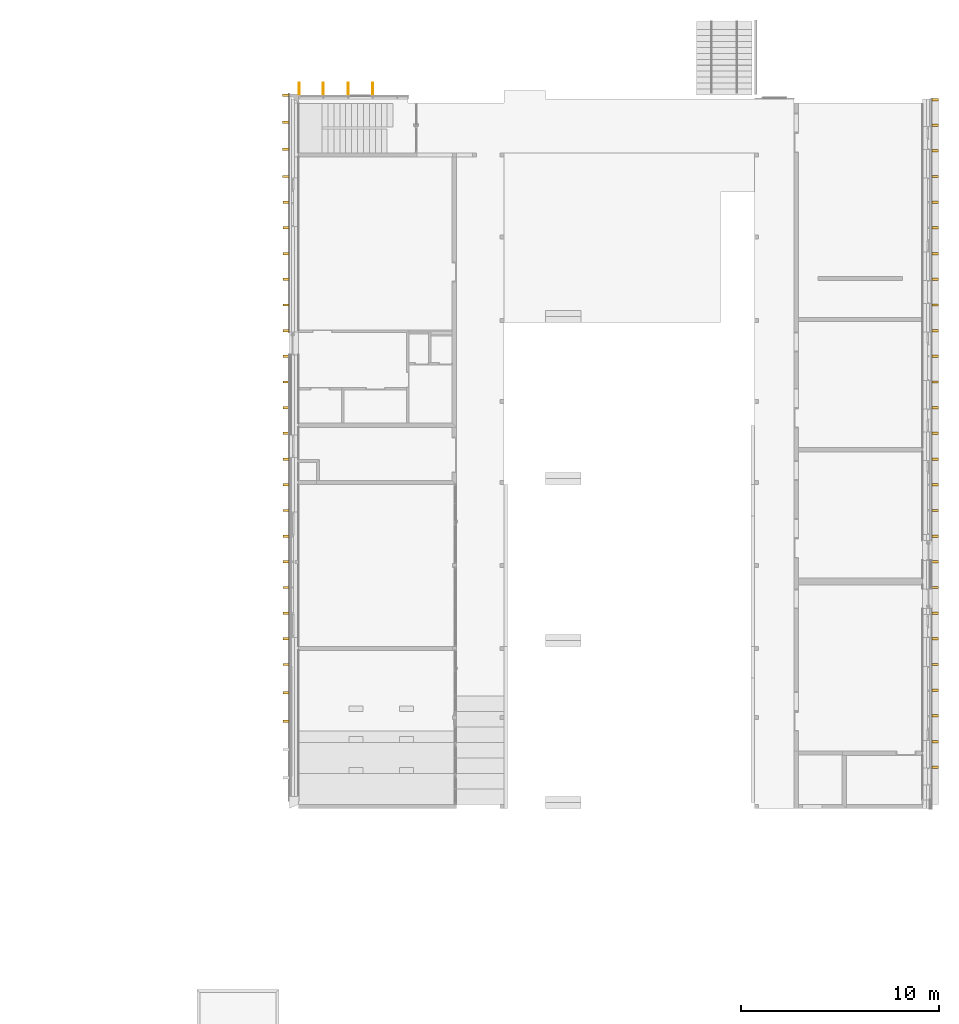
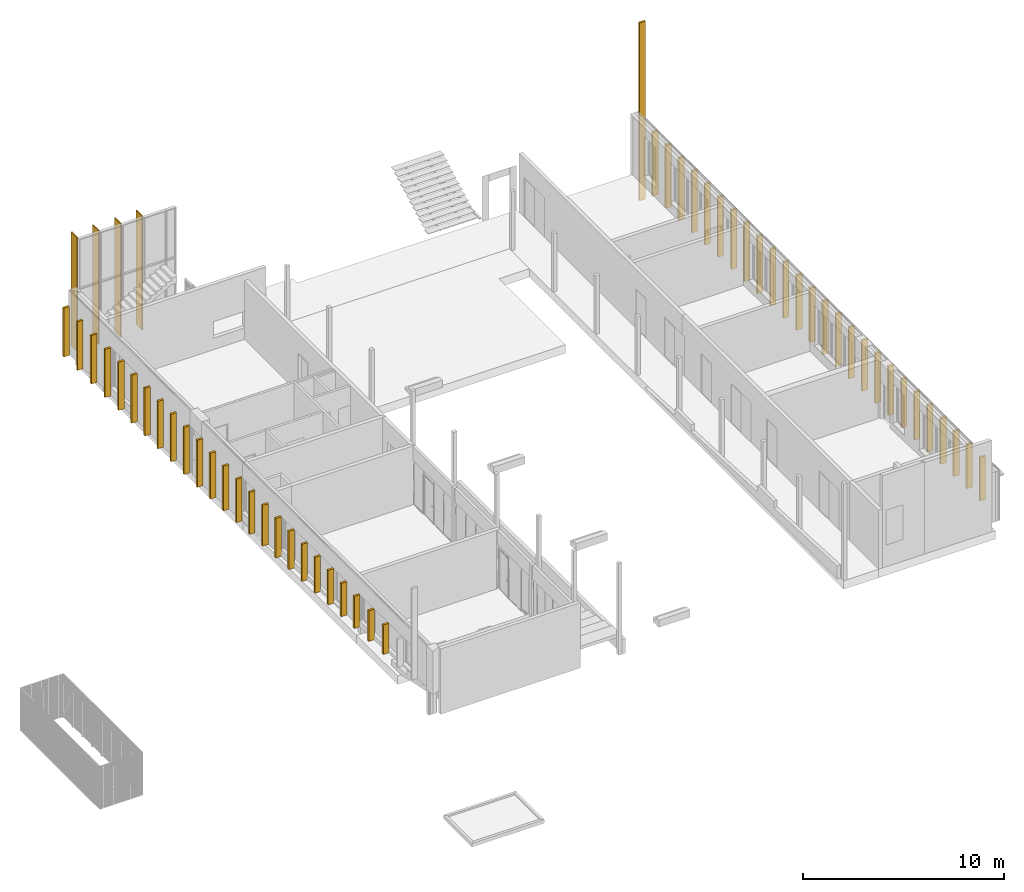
# One storey, part 57 of 65: 56 coverings.
"""IFC2X3 building model written with IfcOpenShell, lengths in millimetres."""

import ifcopenshell
import ifcopenshell.guid

model = None  # the IFC model being written
_history = None  # IfcOwnerHistory: only IFC2X3 demands one
_inside = {}  # id of a spatial element -> (the spatial element, [elements in it])
_under = {}  # id of a project, library or spatial element -> (it, [spatial elements below it])
_declared = {}  # id of a project -> (the project, [libraries it declares])
_typed = {}  # id of a type object -> (the type object, [elements of that type])
_made_of = {}  # id of a material, layer set ... -> (it, [elements and type objects made of it])


def new_model(schema):
    """Start an empty IFC model of exactly this schema.

    Asked for "IFC4X3", IfcOpenShell would pick the latest addendum, in which some entities
    have other attributes; the version numbers below select the first issue.
    IFC2X3 requires an IfcOwnerHistory on every rooted entity: one is made here for all.
    """
    global model, _history
    if schema == "IFC4X3":
        model = ifcopenshell.file(schema_version=(4, 3, 0, 0))
    else:
        model = ifcopenshell.file(schema=schema)
    _inside.clear()
    _under.clear()
    _declared.clear()
    _typed.clear()
    _made_of.clear()
    _history = None
    if model.schema == "IFC2X3":
        org = make("IfcOrganization", Name="unknown")
        user = make(
            "IfcPersonAndOrganization",
            ThePerson=make("IfcPerson", FamilyName="unknown"),
            TheOrganization=org,
        )
        app = make(
            "IfcApplication",
            ApplicationDeveloper=org,
            Version="unknown",
            ApplicationFullName="unknown",
            ApplicationIdentifier="unknown",
        )
        _history = make(
            "IfcOwnerHistory",
            OwningUser=user,
            OwningApplication=app,
            ChangeAction="ADDED",
            CreationDate=0,
        )
    return model


def make(cls, **values):
    """One entity of the class cls with the attributes given. An attribute that is None is left unset."""
    return model.create_entity(
        cls, **{name: value for name, value in values.items() if value is not None}
    )


def entity(cls, *values):
    """Any entity or typed value of the class cls, its attributes in the order of the schema. None: left unset."""
    e = model.create_entity(cls)
    for i, value in enumerate(values):
        if value is not None:
            e[i] = value
    return e


def rooted(cls, **values):
    """An entity with a GlobalId (a new one), such as an element, a storey or a relation."""
    return make(cls, GlobalId=ifcopenshell.guid.new(), OwnerHistory=_history, **values)


def si_unit(unit_type, name, prefix=None):
    """IfcSIUnit, for example si_unit("LENGTHUNIT", "METRE", prefix="MILLI")."""
    return make("IfcSIUnit", UnitType=unit_type, Prefix=prefix, Name=name)


def converted_unit(unit_type, name, factor, base, dimensions=None, offset=None):
    """IfcConversionBasedUnit, such as the inch: factor (a typed value) times the base unit."""
    return make(
        "IfcConversionBasedUnit"
        if offset is None
        else "IfcConversionBasedUnitWithOffset",
        ConversionOffset=offset,
        Dimensions=None
        if dimensions is None
        else entity("IfcDimensionalExponents", *dimensions),
        UnitType=unit_type,
        Name=name,
        ConversionFactor=make(
            "IfcMeasureWithUnit", ValueComponent=factor, UnitComponent=base
        ),
    )


def derived_unit(unit_type, elements):
    """IfcDerivedUnit: a product of units, each with its exponent."""
    return make(
        "IfcDerivedUnit",
        Elements=[
            make("IfcDerivedUnitElement", Unit=unit, Exponent=power)
            for unit, power in elements
        ],
        UnitType=unit_type,
    )


def money_unit(currency):
    """IfcMonetaryUnit."""
    return make("IfcMonetaryUnit", Currency=currency)


def assignment(units):
    """IfcUnitAssignment: the units of a project."""
    return None if units is None else make("IfcUnitAssignment", Units=units)


def point(xyz):
    """IfcCartesianPoint."""
    return None if xyz is None else make("IfcCartesianPoint", Coordinates=xyz)


def direction(xyz):
    """IfcDirection."""
    return None if xyz is None else make("IfcDirection", DirectionRatios=xyz)


def frame(location, z_axis=None, x_axis=None):
    """IfcAxis2Placement3D, a coordinate frame: its origin and axes. An axis left out is left unset."""
    return make(
        "IfcAxis2Placement3D",
        Location=point(location),
        Axis=direction(z_axis),
        RefDirection=direction(x_axis),
    )


def frame_2d(location, x_axis=None):
    """IfcAxis2Placement2D, a coordinate frame in the plane: its origin and x axis."""
    return make(
        "IfcAxis2Placement2D", Location=point(location), RefDirection=direction(x_axis)
    )


def origin_with_axes():
    """The frame at (0, 0, 0) with the z axis (0, 0, 1) and the x axis (1, 0, 0) written out."""
    return frame((0.0, 0.0, 0.0), z_axis=(0.0, 0.0, 1.0), x_axis=(1.0, 0.0, 0.0))


def origin_2d_with_axis():
    """The frame at (0, 0) in the plane with the x axis (1, 0) written out."""
    return frame_2d((0.0, 0.0), x_axis=(1.0, 0.0))


def place(relative_to, where):
    """IfcLocalPlacement: puts the frame where relative to a parent placement (None: the world)."""
    return make(
        "IfcLocalPlacement", PlacementRelTo=relative_to, RelativePlacement=where
    )


def context(
    kind, dimensions, precision=None, world=None, true_north=None, identifier=None
):
    """IfcGeometricRepresentationContext, for example the 3D "Model" context."""
    return make(
        "IfcGeometricRepresentationContext",
        ContextIdentifier=identifier,
        ContextType=kind,
        CoordinateSpaceDimension=dimensions,
        Precision=precision,
        WorldCoordinateSystem=world,
        TrueNorth=true_north,
    )


def subcontext(parent, identifier, kind, view, scale=None):
    """IfcGeometricRepresentationSubContext, for example "Body" below "Model"."""
    return make(
        "IfcGeometricRepresentationSubContext",
        ContextIdentifier=identifier,
        ContextType=kind,
        ParentContext=parent,
        TargetScale=scale,
        TargetView=view,
    )


def project(units=None, contexts=None):
    """IfcProject with its units and contexts."""
    return rooted(
        "IfcProject",
        Name="project",
        RepresentationContexts=contexts,
        UnitsInContext=assignment(units),
    )


def spatial(cls, under=None, at=None, **own):
    """A site, building, storey or space (cls), placed at a placement, below another one or the project."""
    s = rooted(cls, ObjectPlacement=at, **own)
    if under is not None:
        _under.setdefault(under.id(), (under, []))[1].append(s)
    return s


def polyline(points):
    """IfcPolyline through the points."""
    return make("IfcPolyline", Points=[point(p) for p in points])


def profile(cls, at=None, kind="AREA", **sizes):
    """A parametric profile (cls). Its sizes go by their IFC names, for example OverallWidth=200.0."""
    return make(cls, ProfileType=kind, Position=at, **sizes)


def rectangle(**sizes):
    """IfcRectangleProfileDef."""
    return profile("IfcRectangleProfileDef", **sizes)


def outline(outer, holes=None, kind="AREA"):
    """IfcArbitraryClosedProfileDef: a profile drawn as a closed curve; with holes, ...WithVoids."""
    if holes is None:
        return make("IfcArbitraryClosedProfileDef", ProfileType=kind, OuterCurve=outer)
    return make(
        "IfcArbitraryProfileDefWithVoids",
        ProfileType=kind,
        OuterCurve=outer,
        InnerCurves=holes,
    )


def extrude(swept, where, along, depth):
    """IfcExtrudedAreaSolid: the profile swept, set in the frame where, extruded along a direction by depth."""
    return make(
        "IfcExtrudedAreaSolid",
        SweptArea=swept,
        Position=where,
        ExtrudedDirection=direction(along),
        Depth=depth,
    )


def shape(context_of_items, identifier, shape_type, items):
    """IfcShapeRepresentation: the items that make up one representation, for example the "Body"."""
    return make(
        "IfcShapeRepresentation",
        ContextOfItems=context_of_items,
        RepresentationIdentifier=identifier,
        RepresentationType=shape_type,
        Items=items,
    )


def material(Name=None, Category=None):
    """IfcMaterial."""
    return make("IfcMaterial", Name=Name, Category=Category)


def made_of(thing, what):
    """Note that an element or type object is made of a material, layer set ...; save() writes the relation."""
    if what is not None:
        _made_of.setdefault(what.id(), (what, []))[1].append(thing)
    return thing


def type_object(cls, material=None, **own):
    """A type object (cls), such as IfcWallType, which elements share."""
    return made_of(rooted(cls, **own), material)


def element(
    cls,
    number,
    at=None,
    inside=None,
    cuts=None,
    type_object=None,
    material=None,
    context=None,
    identifier="Body",
    shape_type=None,
    held_by="IfcProductDefinitionShape",
    body=None,
    shapes=None,
    **own,
):
    """One element of the class cls, such as IfcWall. Its Tag is "e" and its number.

    at: its placement. inside: the storey or other place that contains it. cuts: it is an
    opening in that element (IfcRelVoidsElement). A single representation is given by context,
    identifier, shape_type and body (its items); several are given by shapes. held_by: the class
    of the entity that holds the representations. save() writes the other relations.
    """
    e = rooted(cls, Tag="e%d" % number, ObjectPlacement=at, **own)
    if body is not None:
        shapes = [shape(context, identifier, shape_type, body)]
    if shapes is not None:
        e.Representation = make(held_by, Representations=shapes)
    if inside is not None:
        _inside.setdefault(inside.id(), (inside, []))[1].append(e)
    if cuts is not None:
        rooted(
            "IfcRelVoidsElement", RelatingBuildingElement=cuts, RelatedOpeningElement=e
        )
    if type_object is not None:
        _typed.setdefault(type_object.id(), (type_object, []))[1].append(e)
    return made_of(e, material)


def aggregate(whole, parts):
    """IfcRelAggregates: a whole, such as a stair, and the parts it consists of."""
    return rooted("IfcRelAggregates", RelatingObject=whole, RelatedObjects=parts)


def save(model, path):
    """Write the relations noted so far, then the file.

    IfcRelAggregates (storeys below a building ...), IfcRelContainedInSpatialStructure (elements
    in a storey), IfcRelDefinesByType, IfcRelAssociatesMaterial and IfcRelDeclares: one each for
    every whole, place, type object, material and project.
    """
    for whole, parts in _under.values():
        aggregate(whole, parts)
    for where, things in _inside.values():
        rooted(
            "IfcRelContainedInSpatialStructure",
            RelatedElements=things,
            RelatingStructure=where,
        )
    for kind, things in _typed.values():
        rooted("IfcRelDefinesByType", RelatedObjects=things, RelatingType=kind)
    for what, things in _made_of.values():
        rooted("IfcRelAssociatesMaterial", RelatedObjects=things, RelatingMaterial=what)
    for by, libraries in _declared.values():
        rooted("IfcRelDeclares", RelatingContext=by, RelatedDefinitions=libraries)
    model.write(path)


model = new_model("IFC2X3")

# Units and contexts
model_context = context("Model", 3, precision=0.01, world=origin_with_axes(), true_north=direction((0.0, 1.0)))
body_context = subcontext(model_context, "Body", "Model", "MODEL_VIEW")
ifc_project = project(units=[si_unit("LENGTHUNIT", "METRE", prefix="MILLI"), si_unit("AREAUNIT", "SQUARE_METRE"), si_unit("VOLUMEUNIT", "CUBIC_METRE"), converted_unit("PLANEANGLEUNIT", "DEGREE", entity("IfcPlaneAngleMeasure", 0.0174532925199), si_unit("PLANEANGLEUNIT", "RADIAN"), dimensions=[0, 0, 0, 0, 0, 0, 0]), si_unit("SOLIDANGLEUNIT", "STERADIAN"), money_unit("EUR"), converted_unit("TIMEUNIT", "Year", entity("IfcTimeMeasure", 31556926.0), si_unit("TIMEUNIT", "SECOND"), dimensions=[0, 0, 1, 0, 0, 0, 0]), si_unit("MASSUNIT", "GRAM", prefix="KILO"), si_unit("THERMODYNAMICTEMPERATUREUNIT", "DEGREE_CELSIUS"), si_unit("LUMINOUSINTENSITYUNIT", "LUMEN"), si_unit("ENERGYUNIT", "JOULE", prefix="MEGA"), derived_unit("THERMALCONDUCTANCEUNIT", [(si_unit("POWERUNIT", "WATT"), 1), (si_unit("LENGTHUNIT", "METRE"), -1), (si_unit("THERMODYNAMICTEMPERATUREUNIT", "KELVIN"), -1)]), derived_unit("SPECIFICHEATCAPACITYUNIT", [(si_unit("ENERGYUNIT", "JOULE"), 1), (si_unit("MASSUNIT", "GRAM", prefix="KILO"), -1), (si_unit("THERMODYNAMICTEMPERATUREUNIT", "KELVIN"), -1)]), derived_unit("MASSDENSITYUNIT", [(si_unit("MASSUNIT", "GRAM", prefix="KILO"), 1), (si_unit("VOLUMEUNIT", "CUBIC_METRE"), -1)])], contexts=[model_context])

# Site, building, storey
site_placement = place(None, origin_with_axes())
site = spatial("IfcSite", under=ifc_project, at=site_placement, Name="Puškini 31, Narva", CompositionType="ELEMENT")
building_placement = place(site_placement, origin_with_axes())
building = spatial("IfcBuilding", under=site, at=building_placement, Name="Narva Riigigümnaasium", CompositionType="ELEMENT")
storey_placement = place(building_placement, frame((0.0, 0.0, -1320.0), z_axis=(0.0, 0.0, 1.0), x_axis=(1.0, 0.0, 0.0)))
storey = spatial("IfcBuildingStorey", under=building, at=storey_placement, Name="1.korrus -1.32", CompositionType="ELEMENT", Elevation=-1320.0)

# Coverings
ifc_material_1 = material(Name="ET-04_Alumiinium")
covering_type_1 = type_object("IfcCoveringType", Name="ET-04_Alumiinium 50", PredefinedType="NOTDEFINED")
for number, where, z_axis, x_axis in (
    (1, (22444.9999984, 195730.0, 49.9997242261), (0.0, 0.0, 1.0), (0.0, -1.0, 0.0)),
    (2, (23669.9999985, 195730.0, 49.9997242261), (0.0, 0.0, 1.0), (0.0, -1.0, 0.0)),
    (3, (24919.9999985, 195730.0, 49.9997242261), (0.0, 0.0, 1.0), (0.0, -1.0, 0.0)),
    (4, (26169.9999985, 195730.0, 49.9997242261), (0.0, 0.0, 1.0), (0.0, -1.0, 0.0)),
):
    element("IfcCovering", number, at=place(storey_placement, frame(where, z_axis=z_axis, x_axis=x_axis)), inside=storey, type_object=covering_type_1, material=ifc_material_1, Name="Fassaadilamell", PredefinedType="NOTDEFINED", context=body_context, shape_type="SweptSolid", body=[
        extrude(outline(polyline([(0.0, -25.0), (600.0, -25.0), (600.0, 25.0), (0.0, 25.0), (0.0, -25.0)])), origin_with_axes(), (0.0, 0.0, 1.0), 6910.0),
    ])
ifc_material_2 = material(Name="Puitroov")
covering_type_2 = type_object("IfcCoveringType", Name="Puitroov 120 x 320", PredefinedType="NOTDEFINED")
covering_1_placement = place(storey_placement, frame((54643.000001, 194875.0, -1843.06023389), z_axis=(0.0, 0.0, 1.0), x_axis=(0.0, 1.0, 0.0)))
element("IfcCovering", 5, at=covering_1_placement, inside=storey, type_object=covering_type_2, material=ifc_material_2, Name="Lamell", PredefinedType="NOTDEFINED", context=body_context, shape_type="SweptSolid", body=[
    extrude(rectangle(XDim=120.0, YDim=320.0, at=origin_2d_with_axis()), origin_with_axes(), (0.0, 0.0, 1.0), 10783.0602339),
])
covering_2_placement = place(storey_placement, frame((54643.0000151, 193585.151272, -787.415817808), z_axis=(0.0, 0.0, 1.0), x_axis=(0.0, 1.0, 0.0)))
element("IfcCovering", 6, at=covering_2_placement, inside=storey, type_object=covering_type_2, material=ifc_material_2, Name="Lamell", PredefinedType="NOTDEFINED", context=body_context, shape_type="SweptSolid", body=[
    extrude(rectangle(XDim=120.0, YDim=320.0, at=origin_2d_with_axis()), origin_with_axes(), (0.0, 0.0, 1.0), 3887.23830255),
])
covering_3_placement = place(storey_placement, frame((54643.0000151, 192285.151272, -737.652152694), z_axis=(0.0, 0.0, 1.0), x_axis=(0.0, 1.0, 0.0)))
element("IfcCovering", 7, at=covering_3_placement, inside=storey, type_object=covering_type_2, material=ifc_material_2, Name="Lamell", PredefinedType="NOTDEFINED", context=body_context, shape_type="SweptSolid", body=[
    extrude(rectangle(XDim=120.0, YDim=320.0, at=origin_2d_with_axis()), origin_with_axes(), (0.0, 0.0, 1.0), 3837.47463744),
])
covering_4_placement = place(storey_placement, frame((54643.0000151, 190985.151272, -687.888487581), z_axis=(0.0, 0.0, 1.0), x_axis=(0.0, 1.0, 0.0)))
element("IfcCovering", 8, at=covering_4_placement, inside=storey, type_object=covering_type_2, material=ifc_material_2, Name="Lamell", PredefinedType="NOTDEFINED", context=body_context, shape_type="SweptSolid", body=[
    extrude(rectangle(XDim=120.0, YDim=320.0, at=origin_2d_with_axis()), origin_with_axes(), (0.0, 0.0, 1.0), 3787.71097232),
])
covering_5_placement = place(storey_placement, frame((54643.0000151, 189685.151272, -638.124822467), z_axis=(0.0, 0.0, 1.0), x_axis=(0.0, 1.0, 0.0)))
element("IfcCovering", 9, at=covering_5_placement, inside=storey, type_object=covering_type_2, material=ifc_material_2, Name="Lamell", PredefinedType="NOTDEFINED", context=body_context, shape_type="SweptSolid", body=[
    extrude(rectangle(XDim=120.0, YDim=320.0, at=origin_2d_with_axis()), origin_with_axes(), (0.0, 0.0, 1.0), 3737.94730721),
])
covering_6_placement = place(storey_placement, frame((54643.0000151, 188385.151272, -588.361157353), z_axis=(0.0, 0.0, 1.0), x_axis=(0.0, 1.0, 0.0)))
element("IfcCovering", 10, at=covering_6_placement, inside=storey, type_object=covering_type_2, material=ifc_material_2, Name="Lamell", PredefinedType="NOTDEFINED", context=body_context, shape_type="SweptSolid", body=[
    extrude(rectangle(XDim=120.0, YDim=320.0, at=origin_2d_with_axis()), origin_with_axes(), (0.0, 0.0, 1.0), 3688.18364209),
])
covering_7_placement = place(storey_placement, frame((54643.0000151, 187085.151272, -538.59749224), z_axis=(0.0, 0.0, 1.0), x_axis=(0.0, 1.0, 0.0)))
element("IfcCovering", 11, at=covering_7_placement, inside=storey, type_object=covering_type_2, material=ifc_material_2, Name="Lamell", PredefinedType="NOTDEFINED", context=body_context, shape_type="SweptSolid", body=[
    extrude(rectangle(XDim=120.0, YDim=320.0, at=origin_2d_with_axis()), origin_with_axes(), (0.0, 0.0, 1.0), 3638.41997698),
])
covering_8_placement = place(storey_placement, frame((54643.0000151, 185785.151272, -488.833827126), z_axis=(0.0, 0.0, 1.0), x_axis=(0.0, 1.0, 0.0)))
element("IfcCovering", 12, at=covering_8_placement, inside=storey, type_object=covering_type_2, material=ifc_material_2, Name="Lamell", PredefinedType="NOTDEFINED", context=body_context, shape_type="SweptSolid", body=[
    extrude(rectangle(XDim=120.0, YDim=320.0, at=origin_2d_with_axis()), origin_with_axes(), (0.0, 0.0, 1.0), 3588.65631187),
])
covering_9_placement = place(storey_placement, frame((54643.0000151, 184485.151272, -439.070162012), z_axis=(0.0, 0.0, 1.0), x_axis=(0.0, 1.0, 0.0)))
element("IfcCovering", 13, at=covering_9_placement, inside=storey, type_object=covering_type_2, material=ifc_material_2, Name="Lamell", PredefinedType="NOTDEFINED", context=body_context, shape_type="SweptSolid", body=[
    extrude(rectangle(XDim=120.0, YDim=320.0, at=origin_2d_with_axis()), origin_with_axes(), (0.0, 0.0, 1.0), 3538.89264675),
])
covering_10_placement = place(storey_placement, frame((54643.0000151, 183185.151272, -389.306496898), z_axis=(0.0, 0.0, 1.0), x_axis=(0.0, 1.0, 0.0)))
element("IfcCovering", 14, at=covering_10_placement, inside=storey, type_object=covering_type_2, material=ifc_material_2, Name="Lamell", PredefinedType="NOTDEFINED", context=body_context, shape_type="SweptSolid", body=[
    extrude(rectangle(XDim=120.0, YDim=320.0, at=origin_2d_with_axis()), origin_with_axes(), (0.0, 0.0, 1.0), 3489.12898164),
])
covering_11_placement = place(storey_placement, frame((54643.0000151, 181885.151272, -339.542831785), z_axis=(0.0, 0.0, 1.0), x_axis=(0.0, 1.0, 0.0)))
element("IfcCovering", 15, at=covering_11_placement, inside=storey, type_object=covering_type_2, material=ifc_material_2, Name="Lamell", PredefinedType="NOTDEFINED", context=body_context, shape_type="SweptSolid", body=[
    extrude(rectangle(XDim=120.0, YDim=320.0, at=origin_2d_with_axis()), origin_with_axes(), (0.0, 0.0, 1.0), 3439.36531653),
])
covering_12_placement = place(storey_placement, frame((54643.0000151, 180585.151272, -289.779166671), z_axis=(0.0, 0.0, 1.0), x_axis=(0.0, 1.0, 0.0)))
element("IfcCovering", 16, at=covering_12_placement, inside=storey, type_object=covering_type_2, material=ifc_material_2, Name="Lamell", PredefinedType="NOTDEFINED", context=body_context, shape_type="SweptSolid", body=[
    extrude(rectangle(XDim=120.0, YDim=320.0, at=origin_2d_with_axis()), origin_with_axes(), (0.0, 0.0, 1.0), 3389.60165141),
])
covering_13_placement = place(storey_placement, frame((54643.0000151, 179285.151272, -240.015501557), z_axis=(0.0, 0.0, 1.0), x_axis=(0.0, 1.0, 0.0)))
element("IfcCovering", 17, at=covering_13_placement, inside=storey, type_object=covering_type_2, material=ifc_material_2, Name="Lamell", PredefinedType="NOTDEFINED", context=body_context, shape_type="SweptSolid", body=[
    extrude(rectangle(XDim=120.0, YDim=320.0, at=origin_2d_with_axis()), origin_with_axes(), (0.0, 0.0, 1.0), 3339.8379863),
])
covering_14_placement = place(storey_placement, frame((54643.0000151, 177985.151272, -190.251836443), z_axis=(0.0, 0.0, 1.0), x_axis=(0.0, 1.0, 0.0)))
element("IfcCovering", 18, at=covering_14_placement, inside=storey, type_object=covering_type_2, material=ifc_material_2, Name="Lamell", PredefinedType="NOTDEFINED", context=body_context, shape_type="SweptSolid", body=[
    extrude(rectangle(XDim=120.0, YDim=320.0, at=origin_2d_with_axis()), origin_with_axes(), (0.0, 0.0, 1.0), 3290.07432118),
])
covering_15_placement = place(storey_placement, frame((54643.0000151, 176685.151272, -140.074012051), z_axis=(0.0, 0.0, 1.0), x_axis=(0.0, 1.0, 0.0)))
element("IfcCovering", 19, at=covering_15_placement, inside=storey, type_object=covering_type_2, material=ifc_material_2, Name="Lamell", PredefinedType="NOTDEFINED", context=body_context, shape_type="SweptSolid", body=[
    extrude(rectangle(XDim=120.0, YDim=320.0, at=origin_2d_with_axis()), origin_with_axes(), (0.0, 0.0, 1.0), 3239.89649679),
])
covering_16_placement = place(storey_placement, frame((54643.0000151, 175385.151272, -90.724506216), z_axis=(0.0, 0.0, 1.0), x_axis=(0.0, 1.0, 0.0)))
element("IfcCovering", 20, at=covering_16_placement, inside=storey, type_object=covering_type_2, material=ifc_material_2, Name="Lamell", PredefinedType="NOTDEFINED", context=body_context, shape_type="SweptSolid", body=[
    extrude(rectangle(XDim=120.0, YDim=320.0, at=origin_2d_with_axis()), origin_with_axes(), (0.0, 0.0, 1.0), 3190.54699096),
])
covering_17_placement = place(storey_placement, frame((54643.0000151, 174085.151272, -40.9608411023), z_axis=(0.0, 0.0, 1.0), x_axis=(0.0, 1.0, 0.0)))
element("IfcCovering", 21, at=covering_17_placement, inside=storey, type_object=covering_type_2, material=ifc_material_2, Name="Lamell", PredefinedType="NOTDEFINED", context=body_context, shape_type="SweptSolid", body=[
    extrude(rectangle(XDim=120.0, YDim=320.0, at=origin_2d_with_axis()), origin_with_axes(), (0.0, 0.0, 1.0), 3140.78332584),
])
covering_18_placement = place(storey_placement, frame((54643.0000151, 172785.151272, 8.80282401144), z_axis=(0.0, 0.0, 1.0), x_axis=(0.0, 1.0, 0.0)))
element("IfcCovering", 22, at=covering_18_placement, inside=storey, type_object=covering_type_2, material=ifc_material_2, Name="Lamell", PredefinedType="NOTDEFINED", context=body_context, shape_type="SweptSolid", body=[
    extrude(rectangle(XDim=120.0, YDim=320.0, at=origin_2d_with_axis()), origin_with_axes(), (0.0, 0.0, 1.0), 3091.01966073),
])
covering_19_placement = place(storey_placement, frame((54643.0000151, 171485.151272, 58.5664891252), z_axis=(0.0, 0.0, 1.0), x_axis=(0.0, 1.0, 0.0)))
element("IfcCovering", 23, at=covering_19_placement, inside=storey, type_object=covering_type_2, material=ifc_material_2, Name="Lamell", PredefinedType="NOTDEFINED", context=body_context, shape_type="SweptSolid", body=[
    extrude(rectangle(XDim=120.0, YDim=320.0, at=origin_2d_with_axis()), origin_with_axes(), (0.0, 0.0, 1.0), 3041.25599562),
])
covering_20_placement = place(storey_placement, frame((54643.0000151, 170185.151272, 108.330154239), z_axis=(0.0, 0.0, 1.0), x_axis=(0.0, 1.0, 0.0)))
element("IfcCovering", 24, at=covering_20_placement, inside=storey, type_object=covering_type_2, material=ifc_material_2, Name="Lamell", PredefinedType="NOTDEFINED", context=body_context, shape_type="SweptSolid", body=[
    extrude(rectangle(XDim=120.0, YDim=320.0, at=origin_2d_with_axis()), origin_with_axes(), (0.0, 0.0, 1.0), 2991.4923305),
])
covering_21_placement = place(storey_placement, frame((54643.0000151, 168885.151272, 158.093819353), z_axis=(0.0, 0.0, 1.0), x_axis=(0.0, 1.0, 0.0)))
element("IfcCovering", 25, at=covering_21_placement, inside=storey, type_object=covering_type_2, material=ifc_material_2, Name="Lamell", PredefinedType="NOTDEFINED", context=body_context, shape_type="SweptSolid", body=[
    extrude(rectangle(XDim=120.0, YDim=320.0, at=origin_2d_with_axis()), origin_with_axes(), (0.0, 0.0, 1.0), 2941.72866539),
])
covering_22_placement = place(storey_placement, frame((54643.0000151, 167585.151272, 207.857484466), z_axis=(0.0, 0.0, 1.0), x_axis=(0.0, 1.0, 0.0)))
element("IfcCovering", 26, at=covering_22_placement, inside=storey, type_object=covering_type_2, material=ifc_material_2, Name="Lamell", PredefinedType="NOTDEFINED", context=body_context, shape_type="SweptSolid", body=[
    extrude(rectangle(XDim=120.0, YDim=320.0, at=origin_2d_with_axis()), origin_with_axes(), (0.0, 0.0, 1.0), 2891.96500027),
])
covering_23_placement = place(storey_placement, frame((54643.0000151, 166285.151272, 257.62114958), z_axis=(0.0, 0.0, 1.0), x_axis=(0.0, 1.0, 0.0)))
element("IfcCovering", 27, at=covering_23_placement, inside=storey, type_object=covering_type_2, material=ifc_material_2, Name="Lamell", PredefinedType="NOTDEFINED", context=body_context, shape_type="SweptSolid", body=[
    extrude(rectangle(XDim=120.0, YDim=320.0, at=origin_2d_with_axis()), origin_with_axes(), (0.0, 0.0, 1.0), 2842.20133516),
])
covering_24_placement = place(storey_placement, frame((54643.0000151, 164985.151272, 307.384814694), z_axis=(0.0, 0.0, 1.0), x_axis=(0.0, 1.0, 0.0)))
element("IfcCovering", 28, at=covering_24_placement, inside=storey, type_object=covering_type_2, material=ifc_material_2, Name="Lamell", PredefinedType="NOTDEFINED", context=body_context, shape_type="SweptSolid", body=[
    extrude(rectangle(XDim=120.0, YDim=320.0, at=origin_2d_with_axis()), origin_with_axes(), (0.0, 0.0, 1.0), 2792.43767005),
])
covering_25_placement = place(storey_placement, frame((54643.0000151, 163685.151272, 357.148479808), z_axis=(0.0, 0.0, 1.0), x_axis=(0.0, 1.0, 0.0)))
element("IfcCovering", 29, at=covering_25_placement, inside=storey, type_object=covering_type_2, material=ifc_material_2, Name="Lamell", PredefinedType="NOTDEFINED", context=body_context, shape_type="SweptSolid", body=[
    extrude(rectangle(XDim=120.0, YDim=320.0, at=origin_2d_with_axis()), origin_with_axes(), (0.0, 0.0, 1.0), 2742.67400493),
])
covering_26_placement = place(storey_placement, frame((54643.0000151, 162385.151272, 407.938226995), z_axis=(0.0, 0.0, 1.0), x_axis=(0.0, 1.0, 0.0)))
element("IfcCovering", 30, at=covering_26_placement, inside=storey, type_object=covering_type_2, material=ifc_material_2, Name="Lamell", PredefinedType="NOTDEFINED", context=body_context, shape_type="SweptSolid", body=[
    extrude(rectangle(XDim=120.0, YDim=320.0, at=origin_2d_with_axis()), origin_with_axes(), (0.0, 0.0, 1.0), 2691.88425775),
])
covering_27_placement = place(storey_placement, frame((54643.0000151, 161085.151272, 456.675810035), z_axis=(0.0, 0.0, 1.0), x_axis=(0.0, 1.0, 0.0)))
element("IfcCovering", 31, at=covering_27_placement, inside=storey, type_object=covering_type_2, material=ifc_material_2, Name="Lamell", PredefinedType="NOTDEFINED", context=body_context, shape_type="SweptSolid", body=[
    extrude(rectangle(XDim=120.0, YDim=320.0, at=origin_2d_with_axis()), origin_with_axes(), (0.0, 0.0, 1.0), 2643.14667471),
])
covering_28_placement = place(storey_placement, frame((21779.9999985, 179285.151272, 329.515943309), z_axis=(0.0, 0.0, 1.0), x_axis=(0.0, 1.0, 0.0)))
element("IfcCovering", 32, at=covering_28_placement, inside=storey, type_object=covering_type_2, material=ifc_material_2, Name="Lamell", PredefinedType="NOTDEFINED", context=body_context, shape_type="SweptSolid", body=[
    extrude(rectangle(XDim=120.0, YDim=320.0, at=origin_2d_with_axis()), origin_with_axes(), (0.0, 0.0, 1.0), 2700.48405669),
])
covering_29_placement = place(storey_placement, frame((21779.9999985, 177985.151272, 404.888006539), z_axis=(0.0, 0.0, 1.0), x_axis=(0.0, 1.0, 0.0)))
element("IfcCovering", 33, at=covering_29_placement, inside=storey, type_object=covering_type_2, material=ifc_material_2, Name="Lamell", PredefinedType="NOTDEFINED", context=body_context, shape_type="SweptSolid", body=[
    extrude(rectangle(XDim=120.0, YDim=320.0, at=origin_2d_with_axis()), origin_with_axes(), (0.0, 0.0, 1.0), 2625.11199346),
])
covering_30_placement = place(storey_placement, frame((21779.9999985, 176685.151272, 480.260069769), z_axis=(0.0, 0.0, 1.0), x_axis=(0.0, 1.0, 0.0)))
element("IfcCovering", 34, at=covering_30_placement, inside=storey, type_object=covering_type_2, material=ifc_material_2, Name="Lamell", PredefinedType="NOTDEFINED", context=body_context, shape_type="SweptSolid", body=[
    extrude(rectangle(XDim=120.0, YDim=320.0, at=origin_2d_with_axis()), origin_with_axes(), (0.0, 0.0, 1.0), 2549.73993023),
])
covering_31_placement = place(storey_placement, frame((21779.9999985, 175385.151272, 555.632133), z_axis=(0.0, 0.0, 1.0), x_axis=(0.0, 1.0, 0.0)))
element("IfcCovering", 35, at=covering_31_placement, inside=storey, type_object=covering_type_2, material=ifc_material_2, Name="Lamell", PredefinedType="NOTDEFINED", context=body_context, shape_type="SweptSolid", body=[
    extrude(rectangle(XDim=120.0, YDim=320.0, at=origin_2d_with_axis()), origin_with_axes(), (0.0, 0.0, 1.0), 2474.367867),
])
covering_32_placement = place(storey_placement, frame((21779.9999985, 174085.151272, 631.00419623), z_axis=(0.0, 0.0, 1.0), x_axis=(0.0, 1.0, 0.0)))
element("IfcCovering", 36, at=covering_32_placement, inside=storey, type_object=covering_type_2, material=ifc_material_2, Name="Lamell", PredefinedType="NOTDEFINED", context=body_context, shape_type="SweptSolid", body=[
    extrude(rectangle(XDim=120.0, YDim=320.0, at=origin_2d_with_axis()), origin_with_axes(), (0.0, 0.0, 1.0), 2398.99580377),
])
covering_33_placement = place(storey_placement, frame((21779.9999985, 172785.151272, 706.37625946), z_axis=(0.0, 0.0, 1.0), x_axis=(0.0, 1.0, 0.0)))
element("IfcCovering", 37, at=covering_33_placement, inside=storey, type_object=covering_type_2, material=ifc_material_2, Name="Lamell", PredefinedType="NOTDEFINED", context=body_context, shape_type="SweptSolid", body=[
    extrude(rectangle(XDim=120.0, YDim=320.0, at=origin_2d_with_axis()), origin_with_axes(), (0.0, 0.0, 1.0), 2323.62374054),
])
covering_34_placement = place(storey_placement, frame((21779.9999985, 171485.151272, 781.748322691), z_axis=(0.0, 0.0, 1.0), x_axis=(0.0, 1.0, 0.0)))
element("IfcCovering", 38, at=covering_34_placement, inside=storey, type_object=covering_type_2, material=ifc_material_2, Name="Lamell", PredefinedType="NOTDEFINED", context=body_context, shape_type="SweptSolid", body=[
    extrude(rectangle(XDim=120.0, YDim=320.0, at=origin_2d_with_axis()), origin_with_axes(), (0.0, 0.0, 1.0), 2248.25167731),
])
covering_35_placement = place(storey_placement, frame((21779.9999985, 170185.151272, 857.120385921), z_axis=(0.0, 0.0, 1.0), x_axis=(0.0, 1.0, 0.0)))
element("IfcCovering", 39, at=covering_35_placement, inside=storey, type_object=covering_type_2, material=ifc_material_2, Name="Lamell", PredefinedType="NOTDEFINED", context=body_context, shape_type="SweptSolid", body=[
    extrude(rectangle(XDim=120.0, YDim=320.0, at=origin_2d_with_axis()), origin_with_axes(), (0.0, 0.0, 1.0), 2172.87961408),
])
covering_36_placement = place(storey_placement, frame((21779.9999985, 168885.151272, 932.492449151), z_axis=(0.0, 0.0, 1.0), x_axis=(0.0, 1.0, 0.0)))
element("IfcCovering", 40, at=covering_36_placement, inside=storey, type_object=covering_type_2, material=ifc_material_2, Name="Lamell", PredefinedType="NOTDEFINED", context=body_context, shape_type="SweptSolid", body=[
    extrude(rectangle(XDim=120.0, YDim=320.0, at=origin_2d_with_axis()), origin_with_axes(), (0.0, 0.0, 1.0), 2097.50755085),
])
covering_37_placement = place(storey_placement, frame((21779.9999985, 167585.151272, 1007.86451238), z_axis=(0.0, 0.0, 1.0), x_axis=(0.0, 1.0, 0.0)))
element("IfcCovering", 41, at=covering_37_placement, inside=storey, type_object=covering_type_2, material=ifc_material_2, Name="Lamell", PredefinedType="NOTDEFINED", context=body_context, shape_type="SweptSolid", body=[
    extrude(rectangle(XDim=120.0, YDim=320.0, at=origin_2d_with_axis()), origin_with_axes(), (0.0, 0.0, 1.0), 2022.13548762),
])
covering_38_placement = place(storey_placement, frame((21779.9999985, 166285.151272, 1083.23657561), z_axis=(0.0, 0.0, 1.0), x_axis=(0.0, 1.0, 0.0)))
element("IfcCovering", 42, at=covering_38_placement, inside=storey, type_object=covering_type_2, material=ifc_material_2, Name="Lamell", PredefinedType="NOTDEFINED", context=body_context, shape_type="SweptSolid", body=[
    extrude(rectangle(XDim=120.0, YDim=320.0, at=origin_2d_with_axis()), origin_with_axes(), (0.0, 0.0, 1.0), 1946.76342439),
])
covering_39_placement = place(storey_placement, frame((21779.9999985, 180585.151272, 254.143880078), z_axis=(0.0, 0.0, 1.0), x_axis=(0.0, 1.0, 0.0)))
element("IfcCovering", 43, at=covering_39_placement, inside=storey, type_object=covering_type_2, material=ifc_material_2, Name="Lamell", PredefinedType="NOTDEFINED", context=body_context, shape_type="SweptSolid", body=[
    extrude(rectangle(XDim=120.0, YDim=320.0, at=origin_2d_with_axis()), origin_with_axes(), (0.0, 0.0, 1.0), 2775.85611992),
])
covering_40_placement = place(storey_placement, frame((21779.9999985, 181885.151272, 178.771816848), z_axis=(0.0, 0.0, 1.0), x_axis=(0.0, 1.0, 0.0)))
element("IfcCovering", 44, at=covering_40_placement, inside=storey, type_object=covering_type_2, material=ifc_material_2, Name="Lamell", PredefinedType="NOTDEFINED", context=body_context, shape_type="SweptSolid", body=[
    extrude(rectangle(XDim=120.0, YDim=320.0, at=origin_2d_with_axis()), origin_with_axes(), (0.0, 0.0, 1.0), 2851.22818315),
])
covering_41_placement = place(storey_placement, frame((21779.9999985, 183185.151272, 164.750480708), z_axis=(0.0, 0.0, 1.0), x_axis=(0.0, 1.0, 0.0)))
element("IfcCovering", 45, at=covering_41_placement, inside=storey, type_object=covering_type_2, material=ifc_material_2, Name="Lamell", PredefinedType="NOTDEFINED", context=body_context, shape_type="SweptSolid", body=[
    extrude(rectangle(XDim=120.0, YDim=320.0, at=origin_2d_with_axis()), origin_with_axes(), (0.0, 0.0, 1.0), 2865.24951929),
])
covering_42_placement = place(storey_placement, frame((21779.9999985, 184485.151272, 154.485243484), z_axis=(0.0, 0.0, 1.0), x_axis=(0.0, 1.0, 0.0)))
element("IfcCovering", 46, at=covering_42_placement, inside=storey, type_object=covering_type_2, material=ifc_material_2, Name="Lamell", PredefinedType="NOTDEFINED", context=body_context, shape_type="SweptSolid", body=[
    extrude(rectangle(XDim=120.0, YDim=320.0, at=origin_2d_with_axis()), origin_with_axes(), (0.0, 0.0, 1.0), 2875.51475652),
])
covering_43_placement = place(storey_placement, frame((21779.9999985, 185785.151272, 144.220006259), z_axis=(0.0, 0.0, 1.0), x_axis=(0.0, 1.0, 0.0)))
element("IfcCovering", 47, at=covering_43_placement, inside=storey, type_object=covering_type_2, material=ifc_material_2, Name="Lamell", PredefinedType="NOTDEFINED", context=body_context, shape_type="SweptSolid", body=[
    extrude(rectangle(XDim=120.0, YDim=320.0, at=origin_2d_with_axis()), origin_with_axes(), (0.0, 0.0, 1.0), 2885.77999374),
])
covering_44_placement = place(storey_placement, frame((21779.9999985, 187085.151272, 133.954769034), z_axis=(0.0, 0.0, 1.0), x_axis=(0.0, 1.0, 0.0)))
element("IfcCovering", 48, at=covering_44_placement, inside=storey, type_object=covering_type_2, material=ifc_material_2, Name="Lamell", PredefinedType="NOTDEFINED", context=body_context, shape_type="SweptSolid", body=[
    extrude(rectangle(XDim=120.0, YDim=320.0, at=origin_2d_with_axis()), origin_with_axes(), (0.0, 0.0, 1.0), 2896.04523097),
])
covering_45_placement = place(storey_placement, frame((21779.9999985, 188385.151272, 123.689531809), z_axis=(0.0, 0.0, 1.0), x_axis=(0.0, 1.0, 0.0)))
element("IfcCovering", 49, at=covering_45_placement, inside=storey, type_object=covering_type_2, material=ifc_material_2, Name="Lamell", PredefinedType="NOTDEFINED", context=body_context, shape_type="SweptSolid", body=[
    extrude(rectangle(XDim=120.0, YDim=320.0, at=origin_2d_with_axis()), origin_with_axes(), (0.0, 0.0, 1.0), 2906.31046819),
])
covering_46_placement = place(storey_placement, frame((21779.9999985, 189685.151272, 113.424294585), z_axis=(0.0, 0.0, 1.0), x_axis=(0.0, 1.0, 0.0)))
element("IfcCovering", 50, at=covering_46_placement, inside=storey, type_object=covering_type_2, material=ifc_material_2, Name="Lamell", PredefinedType="NOTDEFINED", context=body_context, shape_type="SweptSolid", body=[
    extrude(rectangle(XDim=120.0, YDim=320.0, at=origin_2d_with_axis()), origin_with_axes(), (0.0, 0.0, 1.0), 2916.57570542),
])
covering_47_placement = place(storey_placement, frame((21756.999908, 190985.151272, 103.15905736), z_axis=(0.0, 0.0, 1.0), x_axis=(0.0, 1.0, 0.0)))
element("IfcCovering", 51, at=covering_47_placement, inside=storey, type_object=covering_type_2, material=ifc_material_2, Name="Lamell", PredefinedType="NOTDEFINED", context=body_context, shape_type="SweptSolid", body=[
    extrude(rectangle(XDim=120.0, YDim=320.0, at=origin_2d_with_axis()), origin_with_axes(), (0.0, 0.0, 1.0), 2926.84094264),
])
covering_48_placement = place(storey_placement, frame((21756.999908, 192360.100848, 92.3019930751), z_axis=(0.0, 0.0, 1.0), x_axis=(0.0, 1.0, 0.0)))
element("IfcCovering", 52, at=covering_48_placement, inside=storey, type_object=covering_type_2, material=ifc_material_2, Name="Lamell", PredefinedType="NOTDEFINED", context=body_context, shape_type="SweptSolid", body=[
    extrude(rectangle(XDim=120.0, YDim=320.0, at=origin_2d_with_axis()), origin_with_axes(), (0.0, 0.0, 1.0), 2937.69800692),
])
covering_49_placement = place(storey_placement, frame((21756.999908, 193735.050424, 81.4449287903), z_axis=(0.0, 0.0, 1.0), x_axis=(0.0, 1.0, 0.0)))
element("IfcCovering", 53, at=covering_49_placement, inside=storey, type_object=covering_type_2, material=ifc_material_2, Name="Lamell", PredefinedType="NOTDEFINED", context=body_context, shape_type="SweptSolid", body=[
    extrude(rectangle(XDim=120.0, YDim=320.0, at=origin_2d_with_axis()), origin_with_axes(), (0.0, 0.0, 1.0), 2948.55507121),
])
covering_50_placement = place(storey_placement, frame((21756.9999985, 195099.999962, 70.6668281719), z_axis=(0.0, 0.0, 1.0), x_axis=(0.0, 1.0, 0.0)))
element("IfcCovering", 54, at=covering_50_placement, inside=storey, type_object=covering_type_2, material=ifc_material_2, Name="Lamell", PredefinedType="NOTDEFINED", context=body_context, shape_type="SweptSolid", body=[
    extrude(rectangle(XDim=120.0, YDim=320.0, at=origin_2d_with_axis()), origin_with_axes(), (0.0, 0.0, 1.0), 2959.33317183),
])
covering_51_placement = place(storey_placement, frame((21779.9999985, 164851.363454, 1168.13168988), z_axis=(0.0, 0.0, 1.0), x_axis=(0.0, 1.0, 0.0)))
element("IfcCovering", 55, at=covering_51_placement, inside=storey, type_object=covering_type_2, material=ifc_material_2, Name="Lamell", PredefinedType="NOTDEFINED", context=body_context, shape_type="SweptSolid", body=[
    extrude(rectangle(XDim=120.0, YDim=320.0, at=origin_2d_with_axis()), origin_with_axes(), (0.0, 0.0, 1.0), 1861.86831012),
])
covering_52_placement = place(storey_placement, frame((21779.9999985, 163417.575636, 1245.74069321), z_axis=(0.0, 0.0, 1.0), x_axis=(0.0, 1.0, 0.0)))
element("IfcCovering", 56, at=covering_52_placement, inside=storey, type_object=covering_type_2, material=ifc_material_2, Name="Lamell", PredefinedType="NOTDEFINED", context=body_context, shape_type="SweptSolid", body=[
    extrude(rectangle(XDim=120.0, YDim=320.0, at=origin_2d_with_axis()), origin_with_axes(), (0.0, 0.0, 1.0), 1784.25930679),
])

save(model, "model.ifc")
